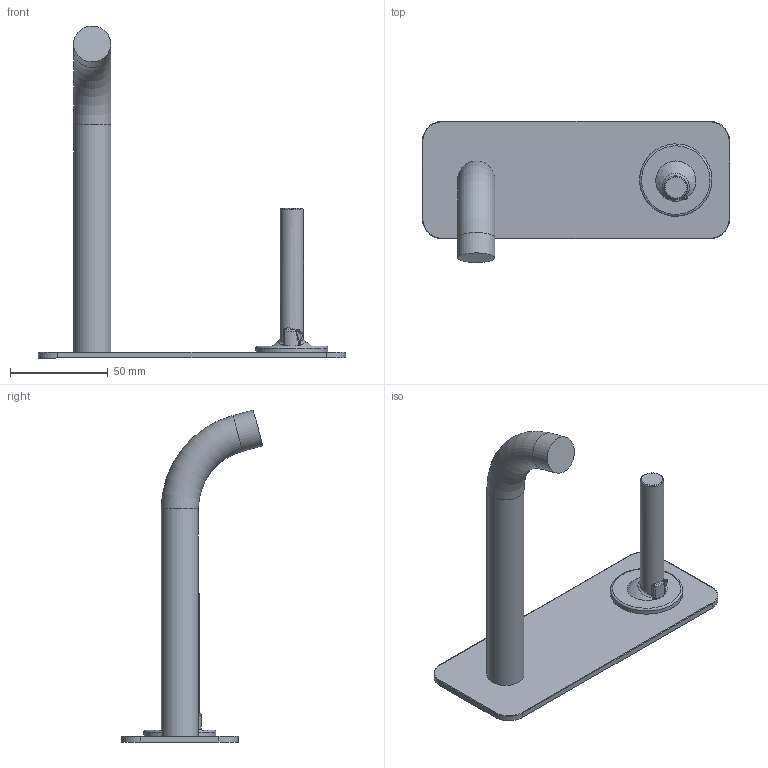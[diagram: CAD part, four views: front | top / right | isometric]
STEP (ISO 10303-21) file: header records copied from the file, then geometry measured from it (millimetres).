
FILE_DESCRIPTION(/* description */ (''),/* implementation_level */ '2;1');
FILE_NAME(/* name */ 'X:\Utilisateurs\Simon\CO11 3D.stp',/* time_stamp */ '2019-08-07T11:43:10-04:00',/* author */ ('sbelange'),/* organization */ (''),/* preprocessor_version */ 'ST-DEVELOPER v17',/* originating_system */ 'Autodesk Inventor 2018',/* authorisation */ '');
FILE_SCHEMA (('AUTOMOTIVE_DESIGN { 1 0 10303 214 3 1 1 }'));
Length unit declared in the file: millimetre
Products named in the file (1): CO11
Bounding box: 157 x 72.46 x 169.68 mm (x, y, z)
Volume: 90484.7 mm3; surface area: 33520.1 mm2
Topology: 1 solids, 2 shells, 64 faces, 140 edges, 81 vertices
Faces by surface type: bspline 24, cylinder 19, plane 11, torus 8, sphere 1, cone 1
Full cylindrical faces by diameter (mm): 12 x1, 19 x2, 37 x1
Entity records: 2828 total; most frequent: CARTESIAN_POINT 1427, ORIENTED_EDGE 278, DIRECTION 243, EDGE_CURVE 139, AXIS2_PLACEMENT_3D 104, VERTEX_POINT 81, EDGE_LOOP 67, STYLED_ITEM 65
